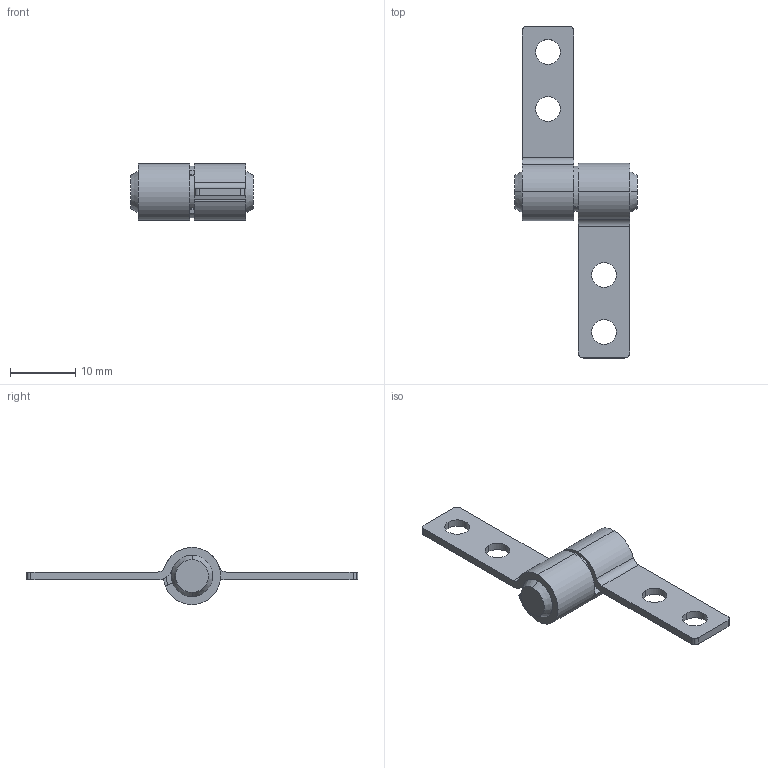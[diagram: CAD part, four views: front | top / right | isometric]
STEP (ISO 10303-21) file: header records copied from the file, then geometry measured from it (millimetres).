
FILE_DESCRIPTION(('STEP AP214'),'1');
FILE_NAME('C:/Users/HAN/Desktop/2000-0011-HNG R Rev 0_0.stp','2012-12-04T02:50:21',(' '),(' '),'Spatial InterOp 3D',' ',' ');
FILE_SCHEMA(('automotive_design'));
Length unit declared in the file: inch
Products named in the file (4): 2000-0011-SHA Rev 0_0; 2000-0011-BND Rev 0_0; Snap Ring 2000-25
Bounding box: 18.8 x 50.8 x 8.75 mm (x, y, z)
Volume: 1363.4 mm3; surface area: 2074.6 mm2
Topology: 4 solids, 4 shells, 76 faces, 194 edges, 128 vertices
Faces by surface type: cylinder 48, plane 24, cone 4
Entity records: 3031 total; most frequent: DIRECTION 454, CARTESIAN_POINT 402, ORIENTED_EDGE 388, EDGE_CURVE 194, AXIS2_PLACEMENT_3D 180, VERTEX_POINT 128, CIRCLE 100, LINE 94
